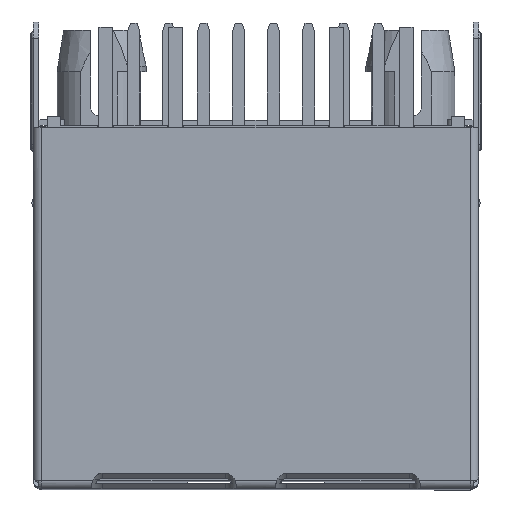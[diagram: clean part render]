
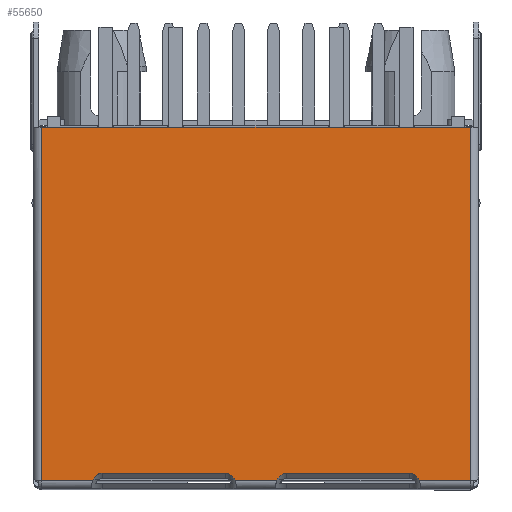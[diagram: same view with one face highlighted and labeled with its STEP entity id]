
A CAD part, top view. The second image highlights one B-rep face of the part: STEP entity #55650.
In plain terms, the highlighted planar face has unit normal (0, 0, 1).
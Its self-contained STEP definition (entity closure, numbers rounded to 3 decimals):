
#50959=CARTESIAN_POINT('',(0.761,-11.95,22.85));
#50961=CARTESIAN_POINT('',(0.761,-11.95,22.85));
#50962=CARTESIAN_POINT('',(0.795,-11.872,22.85));
#50963=CARTESIAN_POINT('',(0.886,-11.749,22.85));
#50964=CARTESIAN_POINT('',(1.015,-11.684,22.85));
#50965=CARTESIAN_POINT('',(1.1,-11.684,22.85));
#50991=CARTESIAN_POINT('',(5.939,-11.95,22.85));
#50992=CARTESIAN_POINT('',(5.905,-11.872,22.85));
#50993=CARTESIAN_POINT('',(5.814,-11.749,22.85));
#50994=CARTESIAN_POINT('',(5.685,-11.684,22.85));
#50995=CARTESIAN_POINT('',(5.6,-11.684,22.85));
#50997=DIRECTION('',(-1.,0.,0.));
#50998=VECTOR('',#50997,4.5);
#50999=CARTESIAN_POINT('',(5.6,-11.684,22.85));
#51000=LINE('',#50999,#50998);
#51001=CARTESIAN_POINT('',(-0.761,-11.95,22.85));
#51002=CARTESIAN_POINT('',(-0.795,-11.872,22.85));
#51003=CARTESIAN_POINT('',(-0.886,-11.749,22.85));
#51004=CARTESIAN_POINT('',(-1.015,-11.684,22.85));
#51005=CARTESIAN_POINT('',(-1.1,-11.684,22.85));
#51007=DIRECTION('',(-1.,0.,0.));
#51008=VECTOR('',#51007,4.5);
#51009=CARTESIAN_POINT('',(-1.1,-11.684,22.85));
#51010=LINE('',#51009,#51008);
#51011=CARTESIAN_POINT('',(-5.6,-11.684,22.85));
#51012=CARTESIAN_POINT('',(-5.685,-11.684,22.85));
#51013=CARTESIAN_POINT('',(-5.814,-11.749,22.85));
#51014=CARTESIAN_POINT('',(-5.905,-11.872,22.85));
#51015=CARTESIAN_POINT('',(-5.939,-11.95,22.85));
#51017=DIRECTION('',(1.,0.,0.));
#51018=VECTOR('',#51017,1.861);
#51019=CARTESIAN_POINT('',(5.939,-11.95,22.85));
#51020=LINE('',#51019,#51018);
#51199=DIRECTION('',(0.,1.,0.));
#51200=VECTOR('',#51199,12.85);
#51201=CARTESIAN_POINT('',(7.8,-11.95,22.85));
#51202=LINE('',#51201,#51200);
#51241=DIRECTION('',(-1.,0.,0.));
#51242=VECTOR('',#51241,15.6);
#51243=CARTESIAN_POINT('',(7.8,0.9,22.85));
#51244=LINE('',#51243,#51242);
#52678=DIRECTION('',(1.,0.,0.));
#52679=VECTOR('',#52678,1.522);
#52680=CARTESIAN_POINT('',(-0.761,-11.95,22.85));
#52681=LINE('',#52680,#52679);
#52690=DIRECTION('',(1.,0.,0.));
#52691=VECTOR('',#52690,1.861);
#52692=CARTESIAN_POINT('',(-7.8,-11.95,22.85));
#52693=LINE('',#52692,#52691);
#52739=DIRECTION('',(0.,-1.,0.));
#52740=VECTOR('',#52739,12.85);
#52741=CARTESIAN_POINT('',(-7.8,0.9,22.85));
#52742=LINE('',#52741,#52740);
#53608=VERTEX_POINT('',#50959);
#53609=VERTEX_POINT('',#50965);
#53634=CARTESIAN_POINT('',(5.6,-11.684,22.85));
#53635=VERTEX_POINT('',#53634);
#53636=CARTESIAN_POINT('',(5.939,-11.95,22.85));
#53637=CARTESIAN_POINT('',(7.8,-11.95,22.85));
#53638=VERTEX_POINT('',#53636);
#53639=VERTEX_POINT('',#53637);
#53640=CARTESIAN_POINT('',(-0.761,-11.95,22.85));
#53641=VERTEX_POINT('',#53640);
#53642=VERTEX_POINT('',#51005);
#53643=CARTESIAN_POINT('',(-5.6,-11.684,22.85));
#53644=VERTEX_POINT('',#53643);
#53645=VERTEX_POINT('',#51015);
#53646=CARTESIAN_POINT('',(-7.8,-11.95,22.85));
#53647=VERTEX_POINT('',#53646);
#53648=CARTESIAN_POINT('',(-7.8,0.9,22.85));
#53649=VERTEX_POINT('',#53648);
#53650=CARTESIAN_POINT('',(7.8,0.9,22.85));
#53651=VERTEX_POINT('',#53650);
#55621=CARTESIAN_POINT('',(0.,-5.525,22.85));
#55622=DIRECTION('',(0.,0.,1.));
#55623=DIRECTION('',(0.,-1.,0.));
#55624=AXIS2_PLACEMENT_3D('',#55621,#55622,#55623);
#55625=PLANE('',#55624);
#55627=ORIENTED_EDGE('',*,*,#55626,.F.);
#55629=ORIENTED_EDGE('',*,*,#55628,.T.);
#55630=ORIENTED_EDGE('',*,*,#55612,.T.);
#55631=ORIENTED_EDGE('',*,*,#55562,.F.);
#55633=ORIENTED_EDGE('',*,*,#55632,.F.);
#55635=ORIENTED_EDGE('',*,*,#55634,.T.);
#55637=ORIENTED_EDGE('',*,*,#55636,.T.);
#55639=ORIENTED_EDGE('',*,*,#55638,.T.);
#55641=ORIENTED_EDGE('',*,*,#55640,.F.);
#55643=ORIENTED_EDGE('',*,*,#55642,.F.);
#55645=ORIENTED_EDGE('',*,*,#55644,.F.);
#55647=ORIENTED_EDGE('',*,*,#55646,.F.);
#55648=EDGE_LOOP('',(#55627,#55629,#55630,#55631,#55633,#55635,#55637,#55639,
#55641,#55643,#55645,#55647));
#55649=FACE_OUTER_BOUND('',#55648,.F.);
#55650=ADVANCED_FACE('',(#55649),#55625,.T.);
#50966=B_SPLINE_CURVE_WITH_KNOTS('',3,(#50961,#50962,#50963,#50964,#50965),
.UNSPECIFIED.,.F.,.F.,(4,1,4),(0.,0.5,1.),.UNSPECIFIED.);
#50996=B_SPLINE_CURVE_WITH_KNOTS('',3,(#50991,#50992,#50993,#50994,#50995),
.UNSPECIFIED.,.F.,.F.,(4,1,4),(0.,0.5,1.),.UNSPECIFIED.);
#51006=B_SPLINE_CURVE_WITH_KNOTS('',3,(#51001,#51002,#51003,#51004,#51005),
.UNSPECIFIED.,.F.,.F.,(4,1,4),(0.,0.5,1.),.UNSPECIFIED.);
#51016=B_SPLINE_CURVE_WITH_KNOTS('',3,(#51011,#51012,#51013,#51014,#51015),
.UNSPECIFIED.,.F.,.F.,(4,1,4),(0.,0.5,1.),.UNSPECIFIED.);
#55562=EDGE_CURVE('',#53608,#53609,#50966,.T.);
#55612=EDGE_CURVE('',#53635,#53609,#51000,.T.);
#55626=EDGE_CURVE('',#53638,#53639,#51020,.T.);
#55628=EDGE_CURVE('',#53638,#53635,#50996,.T.);
#55632=EDGE_CURVE('',#53641,#53608,#52681,.T.);
#55634=EDGE_CURVE('',#53641,#53642,#51006,.T.);
#55636=EDGE_CURVE('',#53642,#53644,#51010,.T.);
#55638=EDGE_CURVE('',#53644,#53645,#51016,.T.);
#55640=EDGE_CURVE('',#53647,#53645,#52693,.T.);
#55642=EDGE_CURVE('',#53649,#53647,#52742,.T.);
#55644=EDGE_CURVE('',#53651,#53649,#51244,.T.);
#55646=EDGE_CURVE('',#53639,#53651,#51202,.T.);
